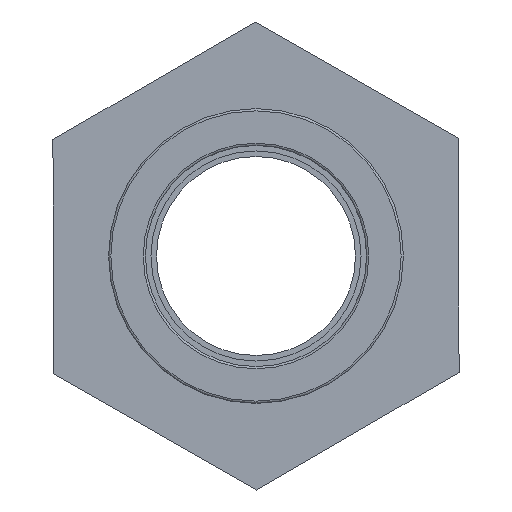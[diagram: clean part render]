
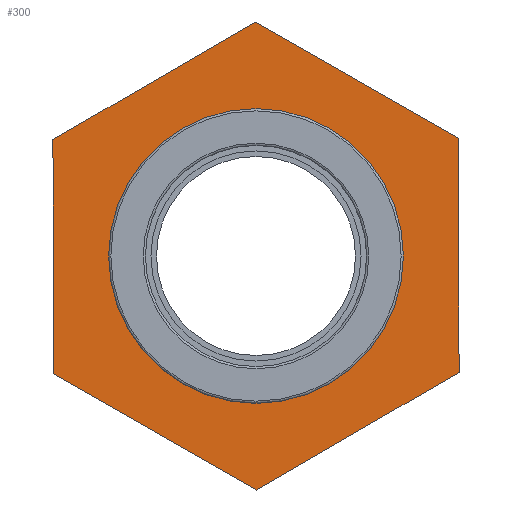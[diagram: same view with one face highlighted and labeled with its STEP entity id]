
A CAD part, left-side view. The second image highlights one B-rep face of the part: STEP entity #300.
In plain terms, the highlighted planar face has unit normal (-1, 0, 0).
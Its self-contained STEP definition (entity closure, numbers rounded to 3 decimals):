
#34=FACE_BOUND('',#109,.T.);
#46=CIRCLE('',#330,8.);
#73=FACE_OUTER_BOUND('',#108,.T.);
#108=EDGE_LOOP('',(#261,#262,#263,#264,#265,#266));
#109=EDGE_LOOP('',(#267));
#112=LINE('',#436,#130);
#116=LINE('',#443,#134);
#119=LINE('',#449,#137);
#122=LINE('',#457,#140);
#125=LINE('',#461,#143);
#127=LINE('',#464,#145);
#130=VECTOR('',#344,12.702);
#134=VECTOR('',#350,12.702);
#137=VECTOR('',#355,12.702);
#140=VECTOR('',#360,12.702);
#143=VECTOR('',#365,12.702);
#145=VECTOR('',#369,12.702);
#148=VERTEX_POINT('',#433);
#149=VERTEX_POINT('',#435);
#151=VERTEX_POINT('',#441);
#153=VERTEX_POINT('',#447);
#156=VERTEX_POINT('',#454);
#157=VERTEX_POINT('',#456);
#169=VERTEX_POINT('',#497);
#174=EDGE_CURVE('',#148,#149,#112,.T.);
#178=EDGE_CURVE('',#151,#148,#116,.T.);
#181=EDGE_CURVE('',#153,#151,#119,.T.);
#184=EDGE_CURVE('',#156,#157,#122,.T.);
#187=EDGE_CURVE('',#149,#156,#125,.T.);
#189=EDGE_CURVE('',#157,#153,#127,.T.);
#201=EDGE_CURVE('',#169,#169,#46,.T.);
#261=ORIENTED_EDGE('',*,*,#174,.F.);
#262=ORIENTED_EDGE('',*,*,#178,.F.);
#263=ORIENTED_EDGE('',*,*,#181,.F.);
#264=ORIENTED_EDGE('',*,*,#189,.F.);
#265=ORIENTED_EDGE('',*,*,#184,.F.);
#266=ORIENTED_EDGE('',*,*,#187,.F.);
#267=ORIENTED_EDGE('',*,*,#201,.F.);
#279=PLANE('',#337);
#300=ADVANCED_FACE('',(#73,#34),#279,.T.);
#330=AXIS2_PLACEMENT_3D('',#498,#412,#413);
#337=AXIS2_PLACEMENT_3D('',#507,#426,#427);
#344=DIRECTION('',(0.,-0.004,-1.));
#350=DIRECTION('',(0.,-0.868,-0.497));
#355=DIRECTION('',(0.,-0.864,0.503));
#360=DIRECTION('',(0.,0.868,0.497));
#365=DIRECTION('',(0.,0.864,-0.503));
#369=DIRECTION('',(0.,0.004,1.));
#412=DIRECTION('center_axis',(-1.,0.,0.));
#413=DIRECTION('ref_axis',(0.,0.,1.));
#426=DIRECTION('center_axis',(-1.,0.,0.));
#427=DIRECTION('ref_axis',(0.,0.,1.));
#433=CARTESIAN_POINT('',(-4.5,-10.977,6.39));
#435=CARTESIAN_POINT('',(-4.5,-11.022,-6.312));
#436=CARTESIAN_POINT('',(-4.5,-10.977,6.39));
#441=CARTESIAN_POINT('',(-4.5,0.045,12.702));
#443=CARTESIAN_POINT('',(-4.5,0.045,12.702));
#447=CARTESIAN_POINT('',(-4.5,11.022,6.312));
#449=CARTESIAN_POINT('',(-4.5,11.022,6.312));
#454=CARTESIAN_POINT('',(-4.5,-0.045,-12.702));
#456=CARTESIAN_POINT('',(-4.5,10.977,-6.39));
#457=CARTESIAN_POINT('',(-4.5,-0.045,-12.702));
#461=CARTESIAN_POINT('',(-4.5,-11.022,-6.312));
#464=CARTESIAN_POINT('',(-4.5,10.977,-6.39));
#497=CARTESIAN_POINT('',(-4.5,-8.,0.));
#498=CARTESIAN_POINT('Origin',(-4.5,0.,0.));
#507=CARTESIAN_POINT('Origin',(-4.5,-8.,0.));
